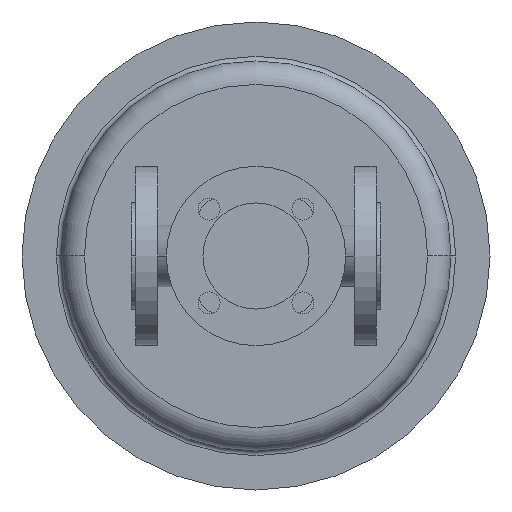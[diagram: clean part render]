
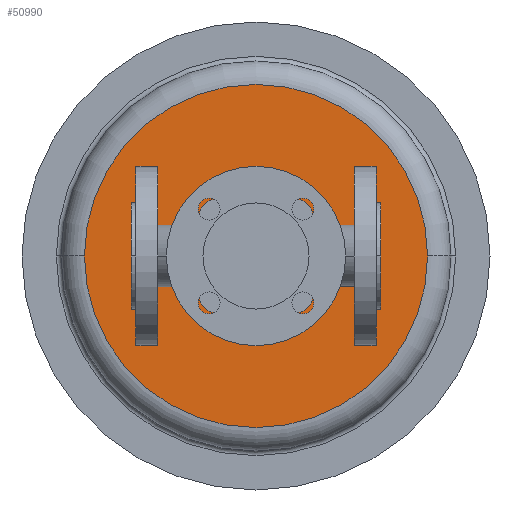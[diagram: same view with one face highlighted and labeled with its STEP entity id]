
A CAD part, front view. The second image highlights one B-rep face of the part: STEP entity #50990.
In plain terms, the highlighted planar face has unit normal (0, -1, 0).
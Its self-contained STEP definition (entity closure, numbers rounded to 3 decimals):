
#37530=CARTESIAN_POINT('',(-30.,360.,0.));
#37540=VERTEX_POINT('',#37530);
#37570=CARTESIAN_POINT('',(80.,360.,0.));
#37580=DIRECTION('',(0.,1.,0.));
#37590=DIRECTION('',(1.,0.,0.));
#37600=AXIS2_PLACEMENT_3D('',#37570,#37580,#37590);
#37610=CIRCLE('',#37600,110.);
#37620=CARTESIAN_POINT('',(190.,360.,0.));
#37630=VERTEX_POINT('',#37620);
#37640=EDGE_CURVE('',#37630,#37540,#37610,.T.);
#38300=CARTESIAN_POINT('',(145.,360.,0.));
#38310=VERTEX_POINT('',#38300);
#38470=CARTESIAN_POINT('',(115.,360.,0.));
#38480=VERTEX_POINT('',#38470);
#38510=CARTESIAN_POINT('',(130.,360.,0.));
#38520=DIRECTION('',(0.,1.,0.));
#38530=DIRECTION('',(1.,0.,0.));
#38540=AXIS2_PLACEMENT_3D('',#38510,#38520,#38530);
#38550=CIRCLE('',#38540,15.);
#38560=EDGE_CURVE('',#38480,#38310,#38550,.T.);
#38720=CARTESIAN_POINT('',(15.,360.,0.));
#38730=VERTEX_POINT('',#38720);
#38890=CARTESIAN_POINT('',(45.,360.,0.));
#38900=VERTEX_POINT('',#38890);
#38930=CARTESIAN_POINT('',(30.,360.,0.));
#38940=DIRECTION('',(0.,1.,0.));
#38950=DIRECTION('',(1.,0.,0.));
#38960=AXIS2_PLACEMENT_3D('',#38930,#38940,#38950);
#38970=CIRCLE('',#38960,15.);
#38980=EDGE_CURVE('',#38900,#38730,#38970,.T.);
#39120=CARTESIAN_POINT('',(61.55,360.,0.));
#39130=VERTEX_POINT('',#39120);
#39180=CARTESIAN_POINT('',(80.,360.,0.));
#39190=DIRECTION('',(0.,1.,0.));
#39200=DIRECTION('',(1.,0.,0.));
#39210=AXIS2_PLACEMENT_3D('',#39180,#39190,#39200);
#39220=CIRCLE('',#39210,18.45);
#39230=CARTESIAN_POINT('',(98.45,360.,0.));
#39240=VERTEX_POINT('',#39230);
#39250=EDGE_CURVE('',#39130,#39240,#39220,.T.);
#50700=CARTESIAN_POINT('',(135.,360.,0.));
#50710=DIRECTION('',(0.,-1.,0.));
#50720=DIRECTION('',(-1.,0.,0.));
#50730=AXIS2_PLACEMENT_3D('',#50700,#50710,#50720);
#50740=PLANE('',#50730);
#50750=ORIENTED_EDGE('',*,*,#39250,.T.);
#50760=EDGE_CURVE('',#39240,#39130,#39220,.T.);
#50770=ORIENTED_EDGE('',*,*,#50760,.T.);
#50780=EDGE_LOOP('',(#50770,#50750));
#50790=FACE_BOUND('',#50780,.T.);
#50800=EDGE_CURVE('',#38730,#38900,#38970,.T.);
#50810=ORIENTED_EDGE('',*,*,#50800,.T.);
#50820=ORIENTED_EDGE('',*,*,#38980,.T.);
#50830=EDGE_LOOP('',(#50820,#50810));
#50840=FACE_BOUND('',#50830,.T.);
#50850=EDGE_CURVE('',#38310,#38480,#38550,.T.);
#50860=ORIENTED_EDGE('',*,*,#50850,.T.);
#50870=ORIENTED_EDGE('',*,*,#38560,.T.);
#50880=EDGE_LOOP('',(#50870,#50860));
#50890=FACE_BOUND('',#50880,.T.);
#50900=CARTESIAN_POINT('',(80.,360.,110.));
#50910=VERTEX_POINT('',#50900);
#50920=EDGE_CURVE('',#50910,#37630,#37610,.T.);
#50930=ORIENTED_EDGE('',*,*,#50920,.F.);
#50940=ORIENTED_EDGE('',*,*,#37640,.F.);
#50950=EDGE_CURVE('',#37540,#50910,#37610,.T.);
#50960=ORIENTED_EDGE('',*,*,#50950,.F.);
#50970=EDGE_LOOP('',(#50960,#50940,#50930));
#50980=FACE_OUTER_BOUND('',#50970,.T.);
#50990=ADVANCED_FACE('',(#50790,#50840,#50890,#50980),#50740,.T.);
